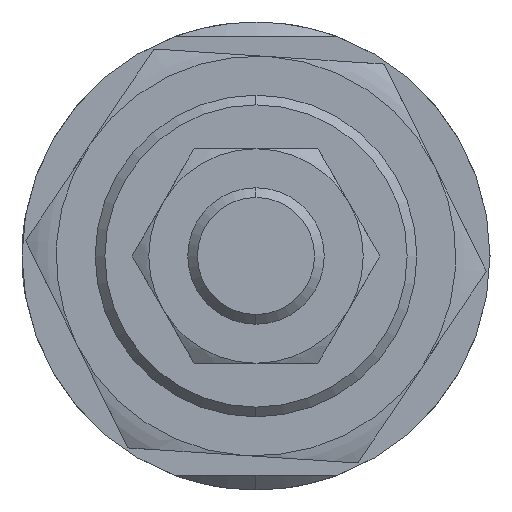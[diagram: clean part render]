
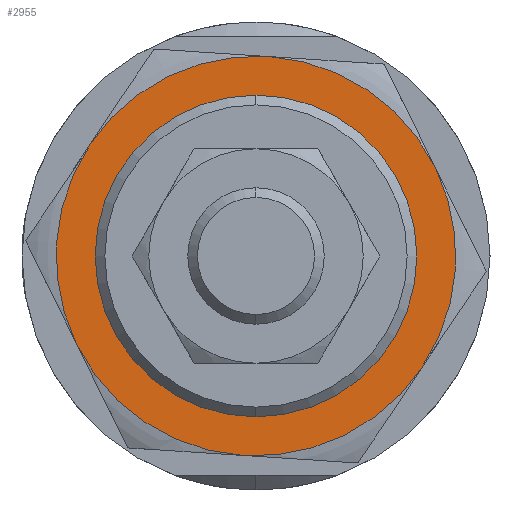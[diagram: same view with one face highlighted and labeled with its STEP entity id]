
A CAD part, left-side view. The second image highlights one B-rep face of the part: STEP entity #2955.
In plain terms, the highlighted planar face has unit normal (-1, 0, 0) as drawn and (0, 0, -1) by its records, which use the part's own axes.
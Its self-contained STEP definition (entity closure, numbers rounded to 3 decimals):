
#21 = EDGE_CURVE ( 'NONE', #3323, #2059, #322, .T. ) ;
#114 = CARTESIAN_POINT ( 'NONE',  ( 0., 0., -5.5 ) ) ;
#141 = CIRCLE ( 'NONE', #2951, 20.5 ) ;
#239 = VERTEX_POINT ( 'NONE', #1737 ) ;
#247 = CIRCLE ( 'NONE', #3423, 20.5 ) ;
#322 = CIRCLE ( 'NONE', #883, 20.5 ) ;
#379 = AXIS2_PLACEMENT_3D ( 'NONE', #607, #1157, #2793 ) ;
#415 = DIRECTION ( 'NONE',  ( 0., 0., 1. ) ) ;
#418 = EDGE_CURVE ( 'NONE', #2059, #3294, #2070, .T. ) ;
#478 = EDGE_CURVE ( 'NONE', #2698, #3323, #247, .T. ) ;
#495 = DIRECTION ( 'NONE',  ( 0., 0., 1. ) ) ;
#509 = ORIENTED_EDGE ( 'NONE', *, *, #2841, .T. ) ;
#523 = CARTESIAN_POINT ( 'NONE',  ( -15.5, 0., -5.5 ) ) ;
#555 = CIRCLE ( 'NONE', #932, 15.5 ) ;
#560 = DIRECTION ( 'NONE',  ( 1., 0., 0. ) ) ;
#607 = CARTESIAN_POINT ( 'NONE',  ( 0., 0., -5.5 ) ) ;
#784 = FACE_BOUND ( 'NONE', #1907, .T. ) ;
#811 = DIRECTION ( 'NONE',  ( 0., 0., 1. ) ) ;
#883 = AXIS2_PLACEMENT_3D ( 'NONE', #2314, #811, #2772 ) ;
#932 = AXIS2_PLACEMENT_3D ( 'NONE', #3014, #2308, #1873 ) ;
#956 = DIRECTION ( 'NONE',  ( 1., 0., 0. ) ) ;
#958 = ORIENTED_EDGE ( 'NONE', *, *, #2048, .T. ) ;
#985 = DIRECTION ( 'NONE',  ( 0., 0., 1. ) ) ;
#1005 = DIRECTION ( 'NONE',  ( 1., 0., 0. ) ) ;
#1009 = ORIENTED_EDGE ( 'NONE', *, *, #1889, .F. ) ;
#1044 = AXIS2_PLACEMENT_3D ( 'NONE', #1418, #985, #1938 ) ;
#1053 = EDGE_CURVE ( 'NONE', #3294, #239, #2780, .T. ) ;
#1157 = DIRECTION ( 'NONE',  ( 0., 0., 1. ) ) ;
#1188 = CIRCLE ( 'NONE', #2760, 20.5 ) ;
#1254 = CARTESIAN_POINT ( 'NONE',  ( -10.25, -17.754, -5.5 ) ) ;
#1294 = ORIENTED_EDGE ( 'NONE', *, *, #3280, .F. ) ;
#1353 = ORIENTED_EDGE ( 'NONE', *, *, #478, .F. ) ;
#1418 = CARTESIAN_POINT ( 'NONE',  ( 0., 0., -5.5 ) ) ;
#1514 = VERTEX_POINT ( 'NONE', #3246 ) ;
#1533 = CARTESIAN_POINT ( 'NONE',  ( -20.5, 0., -5.5 ) ) ;
#1538 = CARTESIAN_POINT ( 'NONE',  ( -10.25, 17.754, -5.5 ) ) ;
#1635 = CARTESIAN_POINT ( 'NONE',  ( 0., 0., -5.5 ) ) ;
#1643 = AXIS2_PLACEMENT_3D ( 'NONE', #114, #495, #560 ) ;
#1708 = CARTESIAN_POINT ( 'NONE',  ( 0., 0., -5.5 ) ) ;
#1737 = CARTESIAN_POINT ( 'NONE',  ( 10.25, -17.754, -5.5 ) ) ;
#1873 = DIRECTION ( 'NONE',  ( 1., 0., 0. ) ) ;
#1889 = EDGE_CURVE ( 'NONE', #1514, #2698, #141, .T. ) ;
#1907 = EDGE_LOOP ( 'NONE', ( #958, #509 ) ) ;
#1938 = DIRECTION ( 'NONE',  ( 1., 0., 0. ) ) ;
#2019 = CARTESIAN_POINT ( 'NONE',  ( 0., 0., -5.5 ) ) ;
#2048 = EDGE_CURVE ( 'NONE', #2573, #2807, #555, .T. ) ;
#2059 = VERTEX_POINT ( 'NONE', #1533 ) ;
#2070 = CIRCLE ( 'NONE', #1044, 20.5 ) ;
#2078 = DIRECTION ( 'NONE',  ( 0., 0., 1. ) ) ;
#2121 = ORIENTED_EDGE ( 'NONE', *, *, #21, .F. ) ;
#2169 = EDGE_LOOP ( 'NONE', ( #1009, #1294, #2581, #3337, #2121, #1353 ) ) ;
#2308 = DIRECTION ( 'NONE',  ( 0., 0., 1. ) ) ;
#2314 = CARTESIAN_POINT ( 'NONE',  ( 0., 0., -5.5 ) ) ;
#2351 = CARTESIAN_POINT ( 'NONE',  ( 10.25, 17.754, -5.5 ) ) ;
#2372 = AXIS2_PLACEMENT_3D ( 'NONE', #1635, #2422, #2594 ) ;
#2391 = DIRECTION ( 'NONE',  ( 1., 0., 0. ) ) ;
#2422 = DIRECTION ( 'NONE',  ( 0., 0., 1. ) ) ;
#2462 = CIRCLE ( 'NONE', #379, 15.5 ) ;
#2468 = DIRECTION ( 'NONE',  ( 0., 0., 1. ) ) ;
#2573 = VERTEX_POINT ( 'NONE', #3309 ) ;
#2581 = ORIENTED_EDGE ( 'NONE', *, *, #1053, .F. ) ;
#2594 = DIRECTION ( 'NONE',  ( 1., 0., 0. ) ) ;
#2698 = VERTEX_POINT ( 'NONE', #2351 ) ;
#2760 = AXIS2_PLACEMENT_3D ( 'NONE', #3180, #2078, #1005 ) ;
#2772 = DIRECTION ( 'NONE',  ( 1., 0., 0. ) ) ;
#2780 = CIRCLE ( 'NONE', #2372, 20.5 ) ;
#2793 = DIRECTION ( 'NONE',  ( 1., 0., 0. ) ) ;
#2798 = PLANE ( 'NONE',  #1643 ) ;
#2807 = VERTEX_POINT ( 'NONE', #523 ) ;
#2841 = EDGE_CURVE ( 'NONE', #2807, #2573, #2462, .T. ) ;
#2951 = AXIS2_PLACEMENT_3D ( 'NONE', #2019, #2468, #956 ) ;
#2955 = ADVANCED_FACE ( 'NONE', ( #784, #3214 ), #2798, .F. ) ;
#3014 = CARTESIAN_POINT ( 'NONE',  ( 0., 0., -5.5 ) ) ;
#3180 = CARTESIAN_POINT ( 'NONE',  ( 0., 0., -5.5 ) ) ;
#3214 = FACE_OUTER_BOUND ( 'NONE', #2169, .T. ) ;
#3246 = CARTESIAN_POINT ( 'NONE',  ( 20.5, 0., -5.5 ) ) ;
#3280 = EDGE_CURVE ( 'NONE', #239, #1514, #1188, .T. ) ;
#3294 = VERTEX_POINT ( 'NONE', #1254 ) ;
#3309 = CARTESIAN_POINT ( 'NONE',  ( 15.5, 0., -5.5 ) ) ;
#3323 = VERTEX_POINT ( 'NONE', #1538 ) ;
#3337 = ORIENTED_EDGE ( 'NONE', *, *, #418, .F. ) ;
#3423 = AXIS2_PLACEMENT_3D ( 'NONE', #1708, #415, #2391 ) ;
